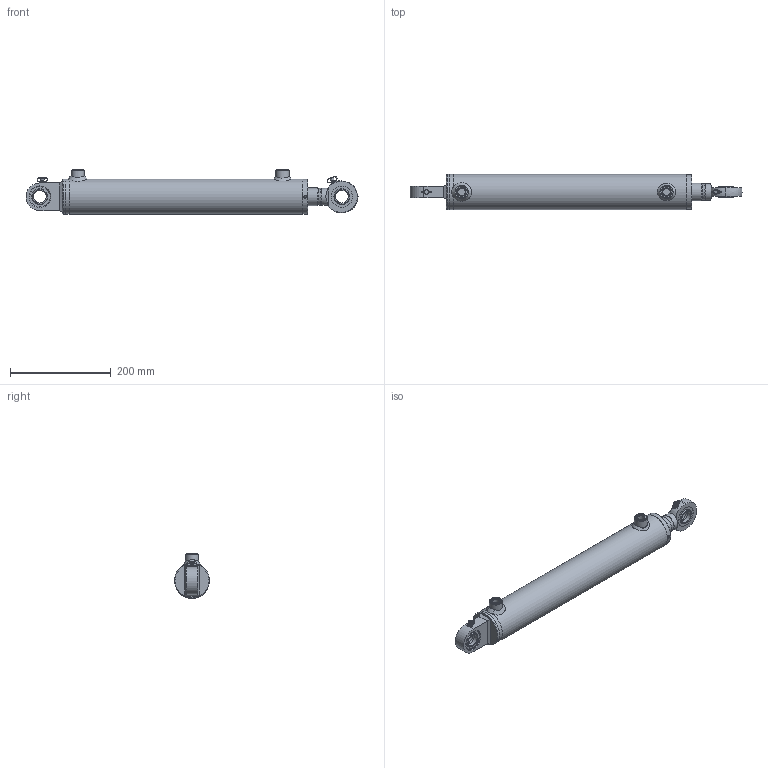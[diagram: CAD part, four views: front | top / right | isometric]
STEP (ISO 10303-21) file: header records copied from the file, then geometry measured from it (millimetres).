
FILE_DESCRIPTION( ( 'Unknown' ), '1' );
FILE_NAME( 'E:/LIBRERIA_3d/CILINDRI/HMB/HMB3350350.stp', 'Unknown', ( 'Unknown' ), ( 'Unknown' ), 'PSStep 17.0.49', 'Unknown', ' ' );
FILE_SCHEMA( ( 'AUTOMOTIVE_DESIGN { 1 0 10303 214 1 1 1 1 }' ) );
Length unit declared in the file: millimetre
Products named in the file (37): CSTSF025N0; An00006001; CSTS025N_CORPO; CSAI002042; CSAI002042-oa0; CG07006035; STL3500350-oa7; Saldatura d'angolo 1-oa5; FTM3500350-oa6; CBSC220600; CT00060020; CSTSF025C0; tsc25c_CORPO; AN00006001; HM03350350; Saldatura con preparazione 1-oa3; Saldatura d'angolo 1-oa4; CF00060070; CBS0600000; CDA0002015; APG0600000; SBL3530350; CSTS025N00; CGE0250000; APGR013000; CSTS025C00; cge0250000; Assem1; Saldatura d'angolo 1-oa1; Saldatura d'angolo 2-oa2
Assembly tree (32 placements, depth 4):
  Saldatura d'angolo 1-oa5
  Saldatura d'angolo 1-oa5
  Saldatura d'angolo 1-oa4
  Saldatura d'angolo 1-oa4
  Assem1
    APGR013000  x2
    CSTS025N00
      CGE0250000
      APGR013000
      CSTSF025N0
        An00006001
        CSTS025N_CORPO
        CSAI002042
        CSAI002042-oa0
    CSTS025C00
      cge0250000
      APGR013000
      CSTSF025C0
        tsc25c_CORPO
        AN00006001
    HM03350350
      Saldatura con preparazione 1-oa3
      Saldatura con preparazione 1-oa3
      CF00060070
      CBS0600000
      CDA0002015
      APG0600000  x2
      SBL3530350
      CT00060020
        CT00060020
      STL3500350-oa7
        FTM3500350-oa6
        CBSC220600
      CG07006035
        CG07006035
Bounding box: 659.5 x 70 x 89 mm (x, y, z)
Volume: 1296773.3 mm3; surface area: 374614.9 mm2
Topology: 32 solids, 32 shells, 390 faces, 803 edges, 508 vertices
Faces by surface type: plane 156, cylinder 99, cone 46, torus 46, bspline 36, sphere 7
Full cylindrical faces by diameter (mm): 2 x4, 4 x1, 4.25 x1, 5 x12, 6 x4, 7 x2, 8 x4, 9 x4, 14.95 x2, 16 x2, 16.6 x2, 19.4 x1, 20 x5, 22 x2, 24.5 x1, 25 x4, 26 x2, 30 x1, 33.5 x1, 35 x4, 37 x1, 38 x1, 40 x2, 42 x8, 43.6 x1, 44 x1, 45 x1, 55 x1, 55.39 x2, 58.65 x2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
Entity records: 14638 total; most frequent: CARTESIAN_POINT 5678, DIRECTION 1360, ORIENTED_EDGE 882, AXIS2_PLACEMENT_3D 617, EDGE_LOOP 592, FACE_OUTER_BOUND 466, EDGE_CURVE 441, VERTEX_POINT 377
